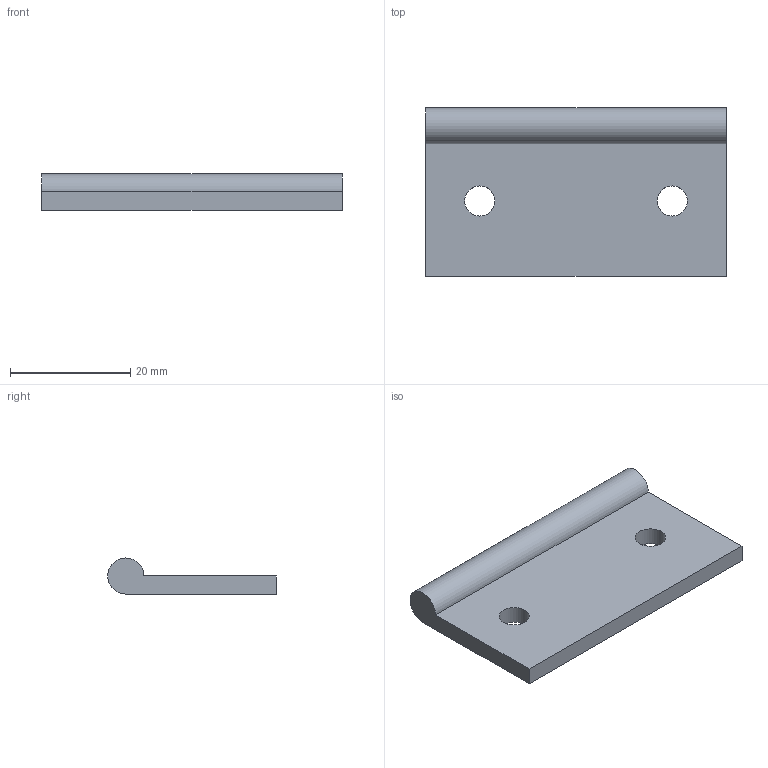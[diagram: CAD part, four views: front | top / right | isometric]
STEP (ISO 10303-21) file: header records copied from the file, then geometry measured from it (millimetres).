
FILE_DESCRIPTION (( 'STEP AP203' ), '1' );
FILE_NAME ('Charnière_Part1.STEP', '2026-06-24T07:29:50', ( '' ), ( '' ), 'SwSTEP 2.0', 'SolidWorks 2024', '' );
FILE_SCHEMA (( 'CONFIG_CONTROL_DESIGN' ));
Length unit declared in the file: millimetre
Products named in the file (1): Charnière_Part1
Bounding box: 50 x 28 x 6 mm (x, y, z)
Volume: 4692.5 mm3; surface area: 3415 mm2
Topology: 1 solids, 1 shells, 8 faces, 18 edges, 12 vertices
Faces by surface type: plane 5, cylinder 3
Full cylindrical faces by diameter (mm): 5 x2
Entity records: 301 total; most frequent: DIRECTION 40, CARTESIAN_POINT 37, ORIENTED_EDGE 32, EDGE_CURVE 16, AXIS2_PLACEMENT_3D 15, EDGE_LOOP 14, VERTEX_POINT 12, VECTOR 10
